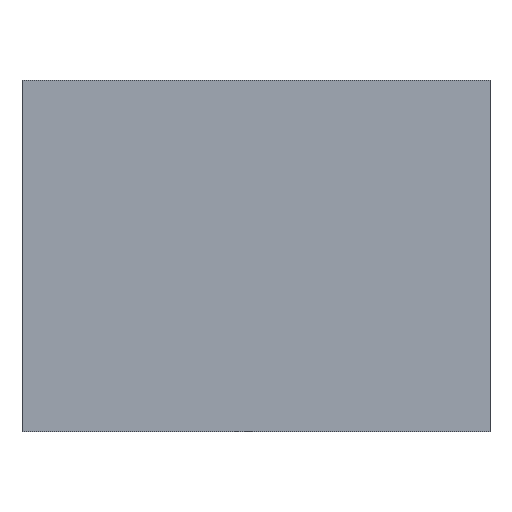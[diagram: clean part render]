
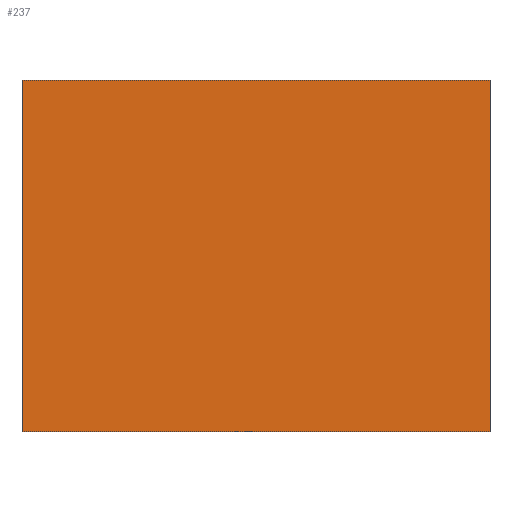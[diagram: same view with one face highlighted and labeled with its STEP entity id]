
A CAD part, front view. The second image highlights one B-rep face of the part: STEP entity #237.
In plain terms, the highlighted planar face has unit normal (0, -1, 0).
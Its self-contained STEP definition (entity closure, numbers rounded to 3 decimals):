
#21 = EDGE_CURVE('',#22,#24,#26,.T.);
#22 = VERTEX_POINT('',#23);
#23 = CARTESIAN_POINT('',(230.,-333.,18.));
#24 = VERTEX_POINT('',#25);
#25 = CARTESIAN_POINT('',(230.,-333.,93.));
#26 = SURFACE_CURVE('',#27,(#31,#43),.PCURVE_S1.);
#27 = LINE('',#28,#29);
#28 = CARTESIAN_POINT('',(230.,-333.,18.));
#29 = VECTOR('',#30,1.);
#30 = DIRECTION('',(0.,0.,1.));
#31 = PCURVE('',#32,#37);
#32 = PLANE('',#33);
#33 = AXIS2_PLACEMENT_3D('',#34,#35,#36);
#34 = CARTESIAN_POINT('',(230.,-333.,18.));
#35 = DIRECTION('',(1.,0.,-0.));
#36 = DIRECTION('',(0.,0.,1.));
#37 = DEFINITIONAL_REPRESENTATION('',(#38),#42);
#38 = LINE('',#39,#40);
#39 = CARTESIAN_POINT('',(0.,0.));
#40 = VECTOR('',#41,1.);
#41 = DIRECTION('',(1.,0.));
#42 = ( GEOMETRIC_REPRESENTATION_CONTEXT(2) 
PARAMETRIC_REPRESENTATION_CONTEXT() REPRESENTATION_CONTEXT('2D SPACE',''
  ) );
#43 = PCURVE('',#44,#49);
#44 = PLANE('',#45);
#45 = AXIS2_PLACEMENT_3D('',#46,#47,#48);
#46 = CARTESIAN_POINT('',(230.,-333.,18.));
#47 = DIRECTION('',(-0.,1.,0.));
#48 = DIRECTION('',(0.,0.,1.));
#49 = DEFINITIONAL_REPRESENTATION('',(#50),#54);
#50 = LINE('',#51,#52);
#51 = CARTESIAN_POINT('',(0.,0.));
#52 = VECTOR('',#53,1.);
#53 = DIRECTION('',(1.,0.));
#54 = ( GEOMETRIC_REPRESENTATION_CONTEXT(2) 
PARAMETRIC_REPRESENTATION_CONTEXT() REPRESENTATION_CONTEXT('2D SPACE',''
  ) );
#72 = PLANE('',#73);
#73 = AXIS2_PLACEMENT_3D('',#74,#75,#76);
#74 = CARTESIAN_POINT('',(230.,-333.,18.));
#75 = DIRECTION('',(0.,0.,1.));
#76 = DIRECTION('',(1.,0.,-0.));
#126 = PLANE('',#127);
#127 = AXIS2_PLACEMENT_3D('',#128,#129,#130);
#128 = CARTESIAN_POINT('',(230.,-333.,93.));
#129 = DIRECTION('',(0.,0.,1.));
#130 = DIRECTION('',(1.,0.,-0.));
#141 = EDGE_CURVE('',#142,#144,#146,.T.);
#142 = VERTEX_POINT('',#143);
#143 = CARTESIAN_POINT('',(330.,-333.,18.));
#144 = VERTEX_POINT('',#145);
#145 = CARTESIAN_POINT('',(330.,-333.,93.));
#146 = SURFACE_CURVE('',#147,(#151,#163),.PCURVE_S1.);
#147 = LINE('',#148,#149);
#148 = CARTESIAN_POINT('',(330.,-333.,18.));
#149 = VECTOR('',#150,1.);
#150 = DIRECTION('',(0.,0.,1.));
#151 = PCURVE('',#152,#157);
#152 = PLANE('',#153);
#153 = AXIS2_PLACEMENT_3D('',#154,#155,#156);
#154 = CARTESIAN_POINT('',(330.,-333.,18.));
#155 = DIRECTION('',(1.,0.,-0.));
#156 = DIRECTION('',(0.,0.,1.));
#157 = DEFINITIONAL_REPRESENTATION('',(#158),#162);
#158 = LINE('',#159,#160);
#159 = CARTESIAN_POINT('',(0.,0.));
#160 = VECTOR('',#161,1.);
#161 = DIRECTION('',(1.,0.));
#162 = ( GEOMETRIC_REPRESENTATION_CONTEXT(2) 
PARAMETRIC_REPRESENTATION_CONTEXT() REPRESENTATION_CONTEXT('2D SPACE',''
  ) );
#163 = PCURVE('',#44,#164);
#164 = DEFINITIONAL_REPRESENTATION('',(#165),#169);
#165 = LINE('',#166,#167);
#166 = CARTESIAN_POINT('',(0.,100.));
#167 = VECTOR('',#168,1.);
#168 = DIRECTION('',(1.,0.));
#169 = ( GEOMETRIC_REPRESENTATION_CONTEXT(2) 
PARAMETRIC_REPRESENTATION_CONTEXT() REPRESENTATION_CONTEXT('2D SPACE',''
  ) );
#237 = ADVANCED_FACE('',(#238),#44,.F.);
#238 = FACE_BOUND('',#239,.F.);
#239 = EDGE_LOOP('',(#240,#261,#262,#283));
#240 = ORIENTED_EDGE('',*,*,#241,.F.);
#241 = EDGE_CURVE('',#22,#142,#242,.T.);
#242 = SURFACE_CURVE('',#243,(#247,#254),.PCURVE_S1.);
#243 = LINE('',#244,#245);
#244 = CARTESIAN_POINT('',(230.,-333.,18.));
#245 = VECTOR('',#246,1.);
#246 = DIRECTION('',(1.,0.,-0.));
#247 = PCURVE('',#44,#248);
#248 = DEFINITIONAL_REPRESENTATION('',(#249),#253);
#249 = LINE('',#250,#251);
#250 = CARTESIAN_POINT('',(0.,0.));
#251 = VECTOR('',#252,1.);
#252 = DIRECTION('',(0.,1.));
#253 = ( GEOMETRIC_REPRESENTATION_CONTEXT(2) 
PARAMETRIC_REPRESENTATION_CONTEXT() REPRESENTATION_CONTEXT('2D SPACE',''
  ) );
#254 = PCURVE('',#72,#255);
#255 = DEFINITIONAL_REPRESENTATION('',(#256),#260);
#256 = LINE('',#257,#258);
#257 = CARTESIAN_POINT('',(0.,0.));
#258 = VECTOR('',#259,1.);
#259 = DIRECTION('',(1.,0.));
#260 = ( GEOMETRIC_REPRESENTATION_CONTEXT(2) 
PARAMETRIC_REPRESENTATION_CONTEXT() REPRESENTATION_CONTEXT('2D SPACE',''
  ) );
#261 = ORIENTED_EDGE('',*,*,#21,.T.);
#262 = ORIENTED_EDGE('',*,*,#263,.T.);
#263 = EDGE_CURVE('',#24,#144,#264,.T.);
#264 = SURFACE_CURVE('',#265,(#269,#276),.PCURVE_S1.);
#265 = LINE('',#266,#267);
#266 = CARTESIAN_POINT('',(230.,-333.,93.));
#267 = VECTOR('',#268,1.);
#268 = DIRECTION('',(1.,0.,-0.));
#269 = PCURVE('',#44,#270);
#270 = DEFINITIONAL_REPRESENTATION('',(#271),#275);
#271 = LINE('',#272,#273);
#272 = CARTESIAN_POINT('',(75.,0.));
#273 = VECTOR('',#274,1.);
#274 = DIRECTION('',(0.,1.));
#275 = ( GEOMETRIC_REPRESENTATION_CONTEXT(2) 
PARAMETRIC_REPRESENTATION_CONTEXT() REPRESENTATION_CONTEXT('2D SPACE',''
  ) );
#276 = PCURVE('',#126,#277);
#277 = DEFINITIONAL_REPRESENTATION('',(#278),#282);
#278 = LINE('',#279,#280);
#279 = CARTESIAN_POINT('',(0.,0.));
#280 = VECTOR('',#281,1.);
#281 = DIRECTION('',(1.,0.));
#282 = ( GEOMETRIC_REPRESENTATION_CONTEXT(2) 
PARAMETRIC_REPRESENTATION_CONTEXT() REPRESENTATION_CONTEXT('2D SPACE',''
  ) );
#283 = ORIENTED_EDGE('',*,*,#141,.F.);
